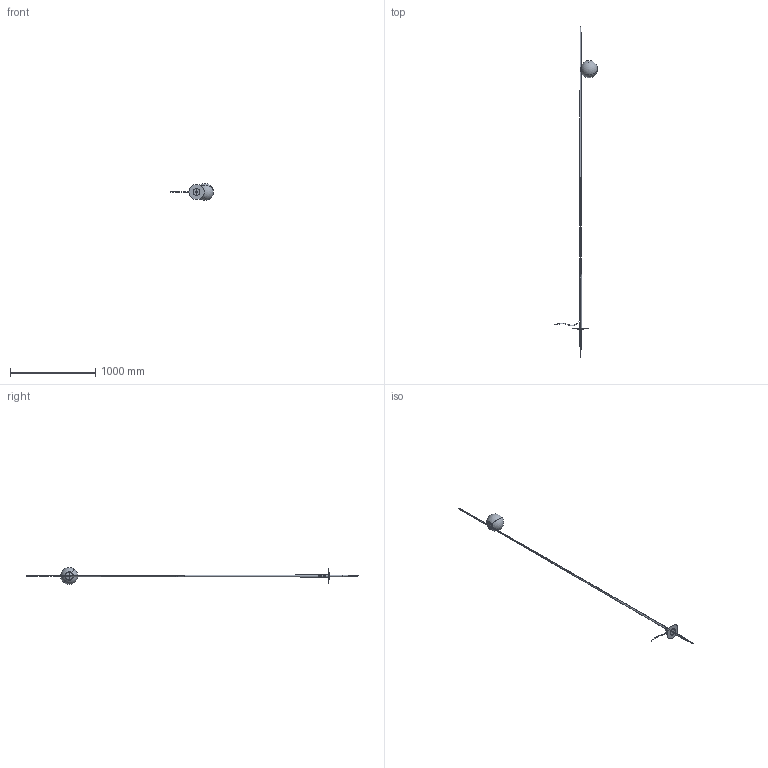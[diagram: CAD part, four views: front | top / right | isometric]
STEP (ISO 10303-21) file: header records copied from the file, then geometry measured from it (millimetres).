
FILE_DESCRIPTION (( 'STEP AP203' ), '1' );
FILE_NAME ('HP302DBEXT.step', '2023-02-16T13:59:04', ( '' ), ( '' ), 'SwSTEP 2.0', 'SolidWorks 2019', '' );
FILE_SCHEMA (( 'CONFIG_CONTROL_DESIGN' ));
Length unit declared in the file: millimetre
Products named in the file (12): HP302DBEXT; PR23MU02-G; PR23MU02-L1; 10CP211PZ  picchetto per piantana; PR23MU02-L2; PR23MU02-F; PR23MU02-Attacco a terra; Copia di cavo^HP302DBEXT; 10CP211PZ  Picchetto per piantana; 10CP211TZ  Disco picchetto_svasa in saldatura; PR23MU02-D2; PR23MU02-E
Assembly tree (11 placements, depth 3):
  HP302DBEXT
    PR23MU02-Attacco a terra
    10CP211PZ  Picchetto per piantana
      10CP211TZ  Disco picchetto_svasa in saldatura
      10CP211PZ  picchetto per piantana
    PR23MU02-L1
    PR23MU02-L2
    PR23MU02-D2
    PR23MU02-E
    PR23MU02-F
    PR23MU02-G
    Copia di cavo^HP302DBEXT
Bounding box: 504.55 x 3892.99 x 199.93 mm (x, y, z)
Volume: 617562.4 mm3; surface area: 728562.8 mm2
Topology: 10 solids, 10 shells, 139 faces, 346 edges, 223 vertices
Faces by surface type: cylinder 60, plane 31, cone 26, sphere 8, torus 8, bspline 6
Entity records: 8344 total; most frequent: CARTESIAN_POINT 3886, DIRECTION 679, ORIENTED_EDGE 660, EDGE_CURVE 330, AXIS2_PLACEMENT_3D 286, VERTEX_POINT 215, EDGE_LOOP 173, FACE_OUTER_BOUND 139
